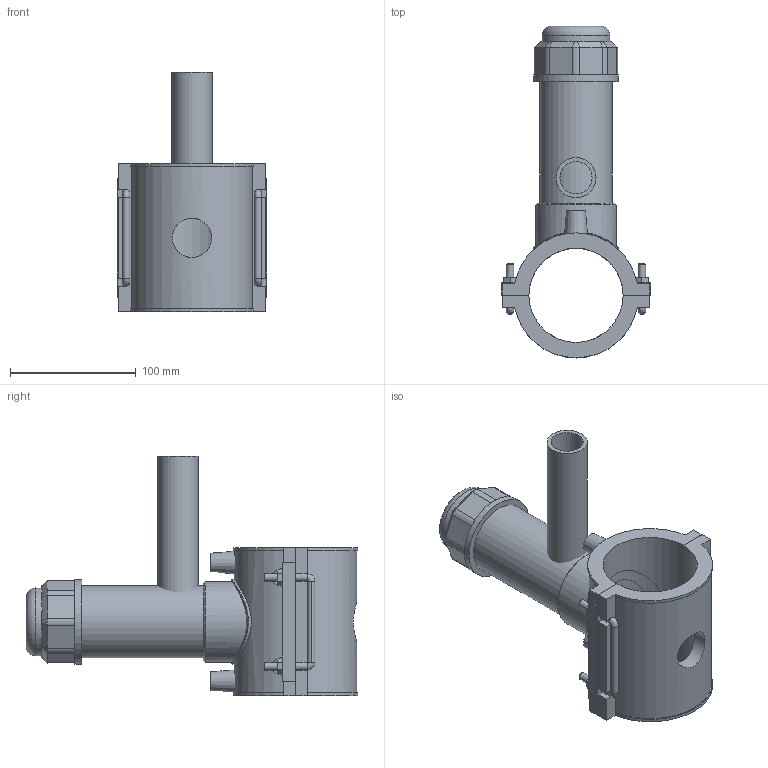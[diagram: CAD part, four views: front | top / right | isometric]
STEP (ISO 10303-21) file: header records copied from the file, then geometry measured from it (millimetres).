
FILE_DESCRIPTION(/* description */ (''),/* implementation_level */ '2;1');
FILE_NAME(/* name */ 'C:\Dropbox\KIMPROJECTS-Inventor 2019\99-16-3568-Processing\ElectroFusion Fittings\4963P4\stp\4963P4075032.stp',/* time_stamp */ '2022-03-17T11:26:11+02:00',/* author */ ('KIM'),/* organization */ (''),/* preprocessor_version */ 'ST-DEVELOPER v17.2',/* originating_system */ 'Autodesk Inventor 2019',/* authorisation */ '');
FILE_SCHEMA (('AUTOMOTIVE_DESIGN { 1 0 10303 214 3 1 1 }'));
Length unit declared in the file: millimetre
Products named in the file (1): 4963P4075032
Bounding box: 119 x 264.23 x 191 mm (x, y, z)
Volume: 729051.3 mm3; surface area: 181737 mm2
Topology: 3 solids, 3 shells, 188 faces, 493 edges, 316 vertices
Faces by surface type: plane 115, cylinder 48, cone 15, bspline 9, torus 1
Full cylindrical faces by diameter (mm): 4 x2, 6 x8, 10 x2, 25.6 x1, 31.36 x1, 32 x1, 47.25 x1, 54 x1, 57.375 x1, 64.125 x1, 67.5 x2
Entity records: 6655 total; most frequent: CARTESIAN_POINT 1953, ORIENTED_EDGE 970, DIRECTION 961, EDGE_CURVE 485, AXIS2_PLACEMENT_3D 329, VERTEX_POINT 316, LINE 303, VECTOR 303
